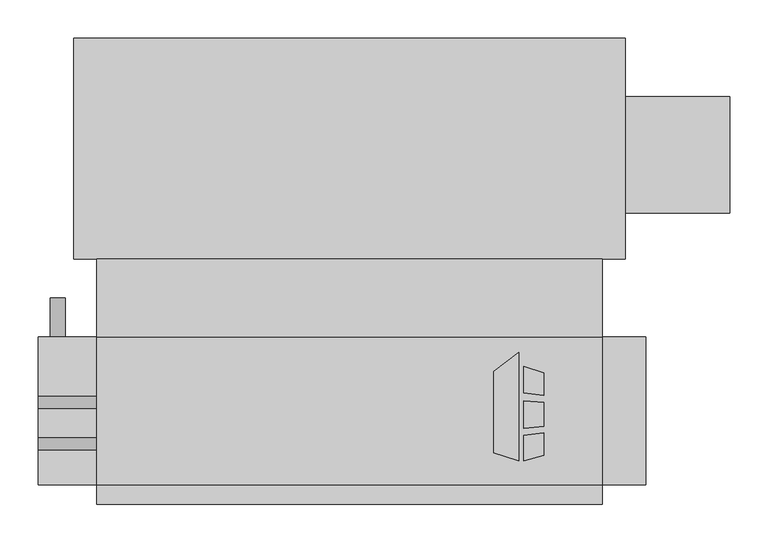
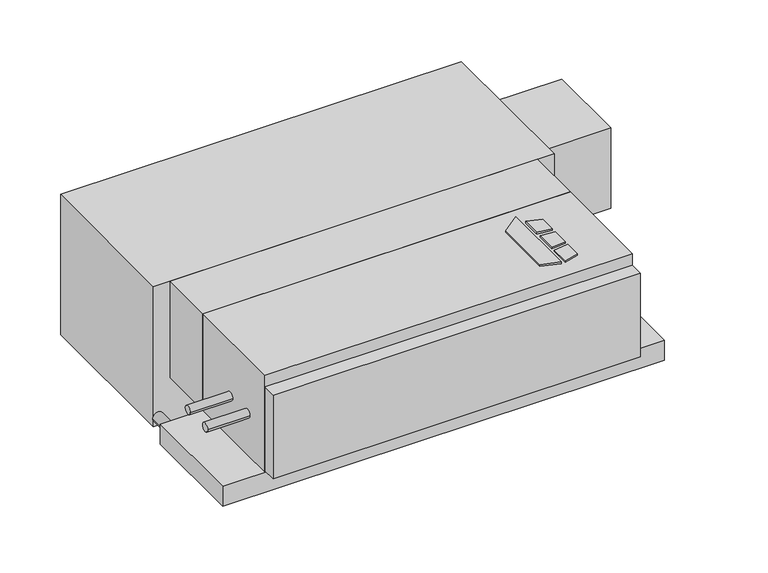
"""IFC4 building model written with IfcOpenShell, lengths in millimetres: proxy geometry, Concealed_Horizontal_Fan_Coil_Unit_With_Plenum_-_CPY_-_IEC_-_2-Pipe_Cool-EHeat_LH_2022 : Size 04 - 277v/60Hz/1Ph - 4 Row 3.0kW."""

from ifc_helpers import new_model, si_unit, point, frame, frame_2d, origin, origin_with_axes, place, context, project, spatial, polyline, circle_curve, trimmed, segment, composite_curve, outline, extrude, source, transform, mapped, element, save


def mechanical_equipment_aed2d3a6(model_context):
    return source(origin(), model_context, "Body", "SweptSolid", [
        extrude(outline(polyline([(341.0019761, -186.6953476), (373.5602728, -161.2580184), (373.5602728, -303.2125), (341.0019761, -292.9929201), (341.0019761, -186.6953476)])), origin_with_axes(), (0.0, 0.0, 1.0), 3.175),
        extrude(outline(polyline([(380.3186058, -214.567352), (380.3186058, -180.0874379), (406.4, -188.2740115), (406.4, -217.7697446), (380.3186058, -214.567352)])), origin_with_axes(), (0.0, 0.0, 1.0), 3.175),
        extrude(outline(polyline([(406.4, -296.2240115), (380.3186058, -303.2125), (380.3186058, -269.9911996), (406.4, -266.4493564), (406.4, -296.2240115)])), origin_with_axes(), (0.0, 0.0, 1.0), 3.175),
        extrude(outline(polyline([(406.4, -226.8513277), (406.4, -258.101483), (380.3186058, -260.842748), (380.3186058, -224.9850378), (406.4, -226.8513277)])), origin_with_axes(), (0.0, 0.0, 1.0), 3.175),
        extrude(outline(composite_curve([segment(trimmed(circle_curve(frame_2d((-280.9875, -104.775)), 7.9375), [point((-288.925, -104.775))], [point((-273.05, -104.775))], False, "CARTESIAN"), True, "CONTINUOUS"), segment(trimmed(circle_curve(frame_2d((-280.9875, -104.775)), 7.9375), [point((-273.05, -104.775))], [point((-288.925, -104.775))], False, "CARTESIAN"), True, "CONTINUOUS")], self_intersect=False)), frame((-254.0, 0.0, 0.0), z_axis=(1.0, 0.0, 0.0), x_axis=(0.0, 1.0, 0.0)), (0.0, 0.0, 1.0), 76.2),
        extrude(outline(composite_curve([segment(trimmed(circle_curve(frame_2d((-227.0125, -104.775)), 7.9375), [point((-234.95, -104.775))], [point((-219.075, -104.775))], False, "CARTESIAN"), True, "CONTINUOUS"), segment(trimmed(circle_curve(frame_2d((-227.0125, -104.775)), 7.9375), [point((-219.075, -104.775))], [point((-234.95, -104.775))], False, "CARTESIAN"), True, "CONTINUOUS")], self_intersect=False)), frame((-254.0, 0.0, 0.0), z_axis=(1.0, 0.0, 0.0), x_axis=(0.0, 1.0, 0.0)), (0.0, 0.0, 1.0), 76.2),
        extrude(outline(composite_curve([segment(trimmed(circle_curve(frame_2d((-209.55, -228.6)), 9.525), [point((-209.55, -238.125))], [point((-209.55, -219.075))], False, "CARTESIAN"), True, "CONTINUOUS"), segment(trimmed(circle_curve(frame_2d((-209.55, -228.6)), 9.525), [point((-209.55, -219.075))], [point((-209.55, -238.125))], False, "CARTESIAN"), True, "CONTINUOUS")], self_intersect=False)), frame((0.0, -141.2875, 0.0), z_axis=(0.0, 1.0, 0.0), x_axis=(0.0, 0.0, 1.0)), (0.0, 0.0, 1.0), 50.8),
        extrude(outline(polyline([(-177.8, -39.6875), (482.6, -39.6875), (482.6, -141.2875), (-177.8, -141.2875), (-177.8, -39.6875)])), frame((0.0, 0.0, -184.15), z_axis=(0.0, 0.0, 1.0), x_axis=(1.0, 0.0, 0.0)), (0.0, 0.0, 1.0), 184.15),
        extrude(outline(polyline([(482.6, -360.3625), (-177.8, -360.3625), (-177.8, -334.9625), (482.6, -334.9625), (482.6, -360.3625)])), frame((0.0, 0.0, -180.975), z_axis=(0.0, 0.0, 1.0), x_axis=(1.0, 0.0, 0.0)), (0.0, 0.0, 1.0), 158.75),
        extrude(outline(polyline([(649.2875, 173.0375), (649.2875, 20.6375), (512.7625, 20.6375), (512.7625, 173.0375), (649.2875, 173.0375)])), frame((0.0, 0.0, -187.325), z_axis=(0.0, 0.0, 1.0), x_axis=(1.0, 0.0, 0.0)), (0.0, 0.0, 1.0), 152.4),
        extrude(outline(polyline([(-207.9625, 249.2375), (512.7625, 249.2375), (512.7625, -39.6875), (-207.9625, -39.6875), (-207.9625, 249.2375)])), frame((0.0, 0.0, -266.7), z_axis=(0.0, 0.0, 1.0), x_axis=(1.0, 0.0, 0.0)), (0.0, 0.0, 1.0), 266.7),
        extrude(outline(polyline([(482.6, -141.2875), (482.6, -334.9625), (-177.8, -334.9625), (-177.8, -141.2875), (482.6, -141.2875)])), frame((0.0, 0.0, -184.15), z_axis=(0.0, 0.0, 1.0), x_axis=(1.0, 0.0, 0.0)), (0.0, 0.0, 1.0), 184.15),
        extrude(outline(polyline([(539.75, -141.2875), (539.75, -334.9625), (-254.0, -334.9625), (-254.0, -141.2875), (539.75, -141.2875)])), frame((0.0, 0.0, -222.25), z_axis=(0.0, 0.0, 1.0), x_axis=(1.0, 0.0, 0.0)), (0.0, 0.0, 1.0), 38.1),
    ])


if __name__ == "__main__":
    model = new_model("IFC4")
    model_context = context("Model", 3, world=origin())
    ifc_project = project(units=[si_unit("LENGTHUNIT", "METRE", prefix="MILLI")], contexts=[model_context])
    site = spatial("IfcSite", under=ifc_project)
    building = spatial("IfcBuilding", under=site)
    placement = place(None, origin())
    mechanical_equipment_shape = mechanical_equipment_aed2d3a6(model_context)
    element("IfcBuildingElementProxy", 1, Name="Concealed_Horizontal_Fan_Coil_Unit_With_Plenum_-_CPY_-_IEC_-_2-Pipe_Cool-EHeat_LH_2022 : Size 04 - 277v/60Hz/1Ph - 4 Row 3.0kW", ObjectType="Concealed_Horizontal_Fan_Coil_Unit_With_Plenum_-_CPY_-_IEC_-_2-Pipe_Cool-EHeat_LH_2022 : Size 04 - 277v/60Hz/1Ph - 4 Row 3.0kW", at=placement, inside=building, context=model_context, shape_type="MappedRepresentation", body=[
        mapped(mechanical_equipment_shape, transform((0.0, 0.0, 0.0), x_axis=(1.0, 0.0, 0.0), y_axis=(0.0, 1.0, 0.0), z_axis=(0.0, 0.0, 1.0))),
    ])
    save(model, "model.ifc")
